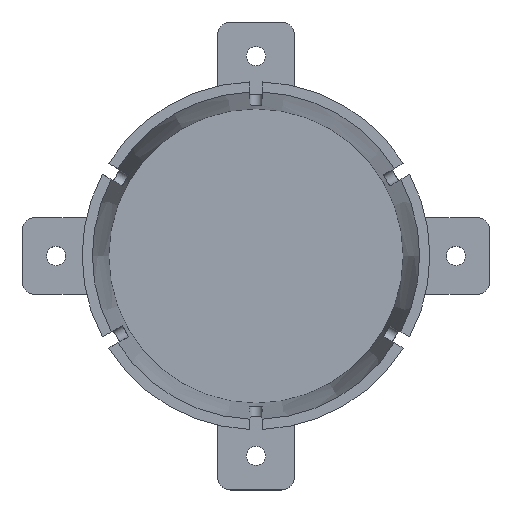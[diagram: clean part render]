
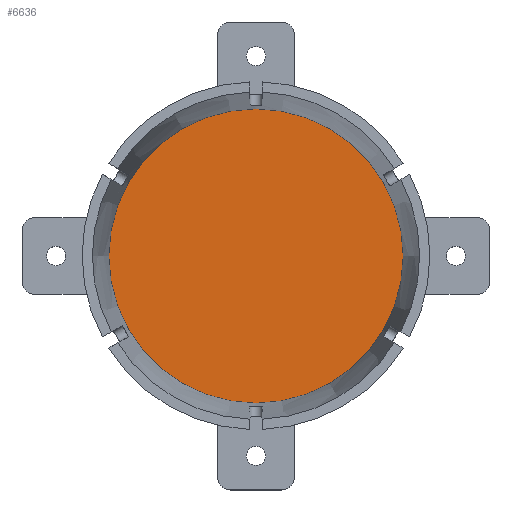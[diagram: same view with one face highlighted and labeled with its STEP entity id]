
A CAD part, top view. The second image highlights one B-rep face of the part: STEP entity #6636.
In plain terms, the highlighted planar face has unit normal (0, 0, 1).
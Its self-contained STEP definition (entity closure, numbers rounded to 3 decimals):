
#4278 = CONICAL_SURFACE('',#4279,38.467,0.084);
#4279 = AXIS2_PLACEMENT_3D('',#4280,#4281,#4282);
#4280 = CARTESIAN_POINT('',(0.,0.,50.));
#4281 = DIRECTION('',(0.,0.,1.));
#4282 = DIRECTION('',(1.,0.,0.));
#6576 = VERTEX_POINT('',#6577);
#6577 = CARTESIAN_POINT('',(34.6,0.,4.));
#6598 = EDGE_CURVE('',#6576,#6576,#6599,.T.);
#6599 = SURFACE_CURVE('',#6600,(#6605,#6612),.PCURVE_S1.);
#6600 = CIRCLE('',#6601,34.6);
#6601 = AXIS2_PLACEMENT_3D('',#6602,#6603,#6604);
#6602 = CARTESIAN_POINT('',(0.,0.,4.));
#6603 = DIRECTION('',(0.,0.,-1.));
#6604 = DIRECTION('',(1.,0.,0.));
#6605 = PCURVE('',#4278,#6606);
#6606 = DEFINITIONAL_REPRESENTATION('',(#6607),#6611);
#6607 = LINE('',#6608,#6609);
#6608 = CARTESIAN_POINT('',(6.283,-46.));
#6609 = VECTOR('',#6610,1.);
#6610 = DIRECTION('',(-1.,-0.));
#6611 = ( GEOMETRIC_REPRESENTATION_CONTEXT(2) 
PARAMETRIC_REPRESENTATION_CONTEXT() REPRESENTATION_CONTEXT('2D SPACE',''
  ) );
#6612 = PCURVE('',#6613,#6618);
#6613 = PLANE('',#6614);
#6614 = AXIS2_PLACEMENT_3D('',#6615,#6616,#6617);
#6615 = CARTESIAN_POINT('',(0.,0.,4.));
#6616 = DIRECTION('',(0.,0.,1.));
#6617 = DIRECTION('',(1.,0.,-0.));
#6618 = DEFINITIONAL_REPRESENTATION('',(#6619),#6627);
#6619 = ( BOUNDED_CURVE() B_SPLINE_CURVE(2,(#6620,#6621,#6622,#6623,
#6624,#6625,#6626),.UNSPECIFIED.,.T.,.F.) B_SPLINE_CURVE_WITH_KNOTS((1,2
    ,2,2,2,1),(-2.094,0.,2.094,4.189,
6.283,8.378),.UNSPECIFIED.) CURVE() 
GEOMETRIC_REPRESENTATION_ITEM() RATIONAL_B_SPLINE_CURVE((1.,0.5,1.,0.5,
1.,0.5,1.)) REPRESENTATION_ITEM('') );
#6620 = CARTESIAN_POINT('',(34.6,0.));
#6621 = CARTESIAN_POINT('',(34.6,-59.929));
#6622 = CARTESIAN_POINT('',(-17.3,-29.964));
#6623 = CARTESIAN_POINT('',(-69.2,0.));
#6624 = CARTESIAN_POINT('',(-17.3,29.964));
#6625 = CARTESIAN_POINT('',(34.6,59.929));
#6626 = CARTESIAN_POINT('',(34.6,0.));
#6627 = ( GEOMETRIC_REPRESENTATION_CONTEXT(2) 
PARAMETRIC_REPRESENTATION_CONTEXT() REPRESENTATION_CONTEXT('2D SPACE',''
  ) );
#6636 = ADVANCED_FACE('',(#6637),#6613,.T.);
#6637 = FACE_BOUND('',#6638,.T.);
#6638 = EDGE_LOOP('',(#6639));
#6639 = ORIENTED_EDGE('',*,*,#6598,.F.);
